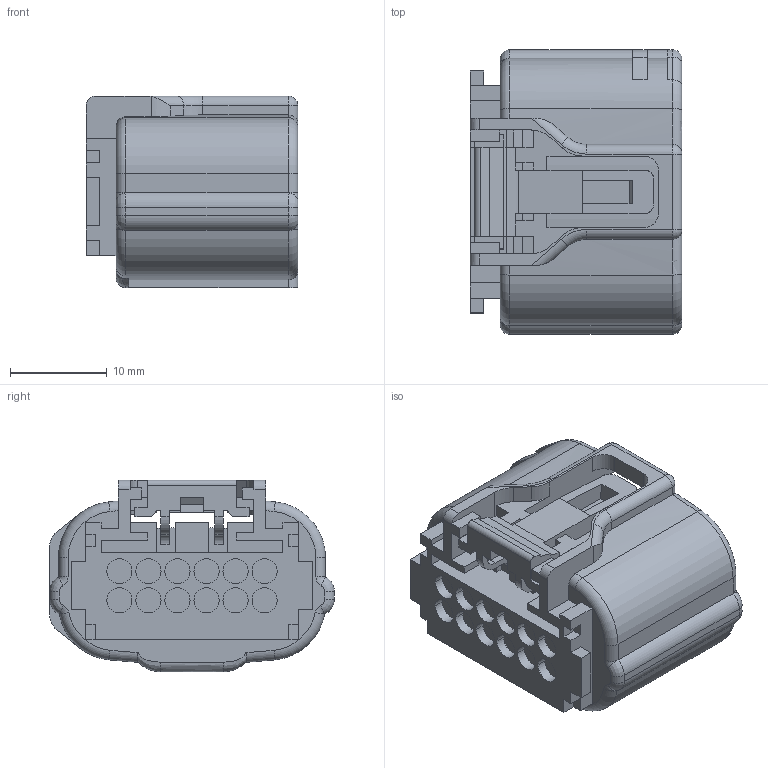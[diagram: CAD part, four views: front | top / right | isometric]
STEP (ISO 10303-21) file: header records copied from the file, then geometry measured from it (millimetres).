
FILE_DESCRIPTION(('CATIA V5 STEP Exchange'),'2;1');
FILE_NAME('N:\C-DAM_MyDesk\ENV\11093U\1設\6189-1128.stp','2013-02-28T03:07:20+00:00',('none'),('none'),'CATIA Version 5 Release 20 SP 4 (IN-10)','CATIA V5 STEP AP203','none');
FILE_SCHEMA(('CONFIG_CONTROL_DESIGN'));
Length unit declared in the file: millimetre
Products named in the file (1): 6189-1128
Bounding box: 21.9 x 29.4 x 19.8 mm (x, y, z)
Volume: 6941.9 mm3; surface area: 5621.1 mm2
Topology: 1 solids, 1 shells, 401 faces, 1093 edges, 697 vertices
Faces by surface type: plane 257, cylinder 105, torus 28, revolution 6, bspline 3, sphere 2
Entity records: 12103 total; most frequent: CARTESIAN_POINT 2559, ORIENTED_EDGE 2170, DIRECTION 1595, EDGE_CURVE 1085, VECTOR 777, LINE 777, VERTEX_POINT 697, AXIS2_PLACEMENT_3D 539
